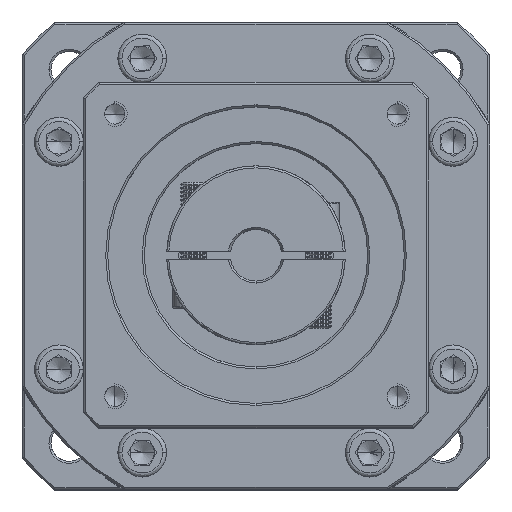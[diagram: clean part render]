
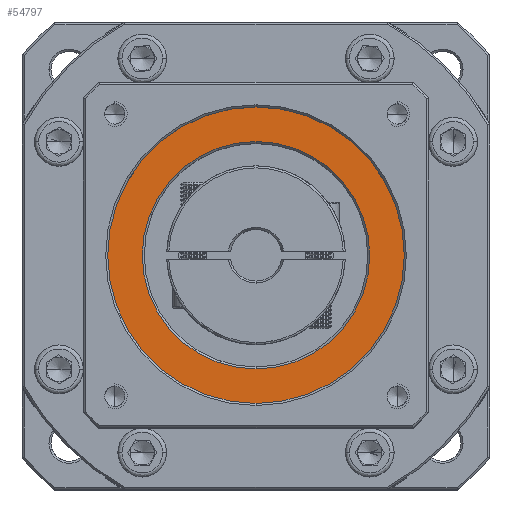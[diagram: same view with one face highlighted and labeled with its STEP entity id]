
A CAD part, top view. The second image highlights one B-rep face of the part: STEP entity #54797.
In plain terms, the highlighted planar face has unit normal (0, 0, 1).
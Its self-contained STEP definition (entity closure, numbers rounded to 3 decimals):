
#12561 = CIRCLE ( 'NONE', #98498, 36.5 ) ;
#14764 = CIRCLE ( 'NONE', #68602, 28. ) ;
#23487 = EDGE_CURVE ( 'NONE', #104311, #114927, #14764, .T. ) ;
#25626 = EDGE_CURVE ( 'NONE', #83323, #101065, #85502, .T. ) ;
#26292 = FACE_OUTER_BOUND ( 'NONE', #47337, .T. ) ;
#38148 = PLANE ( 'NONE',  #92375 ) ;
#41359 = DIRECTION ( 'NONE',  ( 0., 0., 1. ) ) ;
#42426 = EDGE_LOOP ( 'NONE', ( #102470, #62952 ) ) ;
#45846 = EDGE_CURVE ( 'NONE', #101065, #83323, #12561, .T. ) ;
#46195 = CARTESIAN_POINT ( 'NONE',  ( -45.676, -36.897, 265.002 ) ) ;
#47337 = EDGE_LOOP ( 'NONE', ( #68810, #52225 ) ) ;
#51237 = DIRECTION ( 'NONE',  ( 0., -1., 0. ) ) ;
#51285 = AXIS2_PLACEMENT_3D ( 'NONE', #76686, #98074, #118613 ) ;
#52225 = ORIENTED_EDGE ( 'NONE', *, *, #45846, .T. ) ;
#53693 = DIRECTION ( 'NONE',  ( 0., 0., -1. ) ) ;
#54797 = ADVANCED_FACE ( 'NONE', ( #26292, #108119 ), #38148, .T. ) ;
#62952 = ORIENTED_EDGE ( 'NONE', *, *, #86418, .T. ) ;
#64875 = CARTESIAN_POINT ( 'NONE',  ( -45.676, -8.897, 265.002 ) ) ;
#68602 = AXIS2_PLACEMENT_3D ( 'NONE', #64875, #53693, #75214 ) ;
#68810 = ORIENTED_EDGE ( 'NONE', *, *, #25626, .T. ) ;
#72049 = CARTESIAN_POINT ( 'NONE',  ( -45.676, -45.397, 265.002 ) ) ;
#75214 = DIRECTION ( 'NONE',  ( 0., -1., 0. ) ) ;
#76686 = CARTESIAN_POINT ( 'NONE',  ( -45.676, -8.897, 265.002 ) ) ;
#83323 = VERTEX_POINT ( 'NONE', #72049 ) ;
#83408 = DIRECTION ( 'NONE',  ( 0., -1., 0. ) ) ;
#84970 = AXIS2_PLACEMENT_3D ( 'NONE', #93610, #41359, #83408 ) ;
#85198 = CARTESIAN_POINT ( 'NONE',  ( -45.676, 27.603, 265.002 ) ) ;
#85502 = CIRCLE ( 'NONE', #84970, 36.5 ) ;
#85569 = DIRECTION ( 'NONE',  ( 0., 0., 1. ) ) ;
#85911 = CARTESIAN_POINT ( 'NONE',  ( -45.676, 19.103, 265.002 ) ) ;
#86418 = EDGE_CURVE ( 'NONE', #114927, #104311, #136829, .T. ) ;
#86919 = CARTESIAN_POINT ( 'NONE',  ( -45.676, -8.897, 265.002 ) ) ;
#92375 = AXIS2_PLACEMENT_3D ( 'NONE', #114252, #125833, #51237 ) ;
#93610 = CARTESIAN_POINT ( 'NONE',  ( -45.676, -8.897, 265.002 ) ) ;
#98074 = DIRECTION ( 'NONE',  ( 0., 0., -1. ) ) ;
#98498 = AXIS2_PLACEMENT_3D ( 'NONE', #86919, #85569, #128871 ) ;
#101065 = VERTEX_POINT ( 'NONE', #85198 ) ;
#102470 = ORIENTED_EDGE ( 'NONE', *, *, #23487, .T. ) ;
#104311 = VERTEX_POINT ( 'NONE', #46195 ) ;
#108119 = FACE_BOUND ( 'NONE', #42426, .T. ) ;
#114252 = CARTESIAN_POINT ( 'NONE',  ( -45.676, -8.897, 265.002 ) ) ;
#114927 = VERTEX_POINT ( 'NONE', #85911 ) ;
#118613 = DIRECTION ( 'NONE',  ( 0., -1., 0. ) ) ;
#125833 = DIRECTION ( 'NONE',  ( 0., 0., 1. ) ) ;
#128871 = DIRECTION ( 'NONE',  ( 0., -1., 0. ) ) ;
#136829 = CIRCLE ( 'NONE', #51285, 28. ) ;
